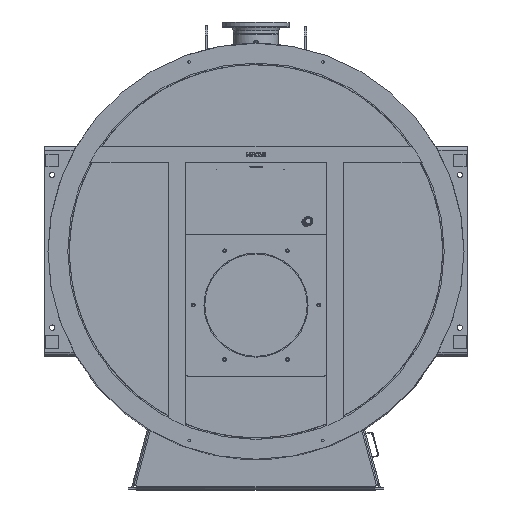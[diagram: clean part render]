
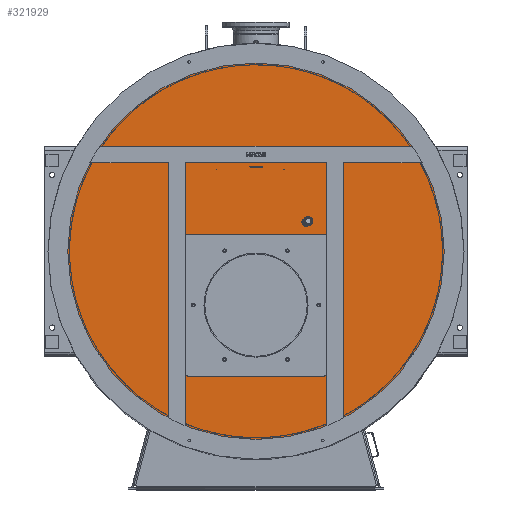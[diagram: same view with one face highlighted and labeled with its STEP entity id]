
A CAD part, top view. The second image highlights one B-rep face of the part: STEP entity #321929.
In plain terms, the highlighted planar face has unit normal (0, 0, 1).
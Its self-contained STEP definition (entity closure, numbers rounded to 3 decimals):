
#321810=CARTESIAN_POINT('',(190.,-163.25,478.));
#321811=DIRECTION('',(0.,0.,1.));
#321812=DIRECTION('',(1.,0.,0.));
#321813=AXIS2_PLACEMENT_3D('',#321810,#321811,#321812);
#321814=PLANE('',#321813);
#321815=CARTESIAN_POINT('',(-430.,-736.5,478.));
#321816=VERTEX_POINT('',#321815);
#321817=CARTESIAN_POINT('',(-410.,-756.5,478.));
#321818=VERTEX_POINT('',#321817);
#321819=CARTESIAN_POINT('',(-410.,-736.5,478.));
#321820=DIRECTION('',(0.,0.,1.));
#321821=DIRECTION('',(1.,0.,-0.));
#321822=AXIS2_PLACEMENT_3D('',#321819,#321820,#321821);
#321823=CIRCLE('',#321822,20.);
#321824=EDGE_CURVE('',#321816,#321818,#321823,.T.);
#321825=ORIENTED_EDGE('',*,*,#321824,.F.);
#321826=CARTESIAN_POINT('',(-430.,83.5,478.));
#321827=VERTEX_POINT('',#321826);
#321828=CARTESIAN_POINT('',(-430.,-736.5,478.));
#321829=DIRECTION('',(0.,1.,0.));
#321830=VECTOR('',#321829,820.);
#321831=LINE('',#321828,#321830);
#321832=EDGE_CURVE('',#321816,#321827,#321831,.T.);
#321833=ORIENTED_EDGE('',*,*,#321832,.T.);
#321834=CARTESIAN_POINT('',(-410.,103.5,478.));
#321835=VERTEX_POINT('',#321834);
#321836=CARTESIAN_POINT('',(-410.,83.5,478.));
#321837=DIRECTION('',(0.,0.,1.));
#321838=DIRECTION('',(1.,0.,-0.));
#321839=AXIS2_PLACEMENT_3D('',#321836,#321837,#321838);
#321840=CIRCLE('',#321839,20.);
#321841=EDGE_CURVE('',#321835,#321827,#321840,.T.);
#321842=ORIENTED_EDGE('',*,*,#321841,.F.);
#321843=CARTESIAN_POINT('',(410.,103.5,478.));
#321844=VERTEX_POINT('',#321843);
#321845=CARTESIAN_POINT('',(410.,103.5,478.));
#321846=DIRECTION('',(-1.,0.,0.));
#321847=VECTOR('',#321846,820.);
#321848=LINE('',#321845,#321847);
#321849=EDGE_CURVE('',#321844,#321835,#321848,.T.);
#321850=ORIENTED_EDGE('',*,*,#321849,.F.);
#321851=CARTESIAN_POINT('',(430.,83.5,478.));
#321852=VERTEX_POINT('',#321851);
#321853=CARTESIAN_POINT('',(410.,83.5,478.));
#321854=DIRECTION('',(0.,0.,1.));
#321855=DIRECTION('',(1.,0.,-0.));
#321856=AXIS2_PLACEMENT_3D('',#321853,#321854,#321855);
#321857=CIRCLE('',#321856,20.);
#321858=EDGE_CURVE('',#321852,#321844,#321857,.T.);
#321859=ORIENTED_EDGE('',*,*,#321858,.F.);
#321860=CARTESIAN_POINT('',(430.,-736.5,478.));
#321861=VERTEX_POINT('',#321860);
#321862=CARTESIAN_POINT('',(430.,-736.5,478.));
#321863=DIRECTION('',(0.,1.,0.));
#321864=VECTOR('',#321863,820.);
#321865=LINE('',#321862,#321864);
#321866=EDGE_CURVE('',#321861,#321852,#321865,.T.);
#321867=ORIENTED_EDGE('',*,*,#321866,.F.);
#321868=CARTESIAN_POINT('',(410.,-756.5,478.));
#321869=VERTEX_POINT('',#321868);
#321870=CARTESIAN_POINT('',(410.,-736.5,478.));
#321871=DIRECTION('',(0.,0.,1.));
#321872=DIRECTION('',(1.,0.,-0.));
#321873=AXIS2_PLACEMENT_3D('',#321870,#321871,#321872);
#321874=CIRCLE('',#321873,20.);
#321875=EDGE_CURVE('',#321869,#321861,#321874,.T.);
#321876=ORIENTED_EDGE('',*,*,#321875,.F.);
#321877=CARTESIAN_POINT('',(-410.,-756.5,478.));
#321878=DIRECTION('',(1.,0.,-0.));
#321879=VECTOR('',#321878,820.);
#321880=LINE('',#321877,#321879);
#321881=EDGE_CURVE('',#321818,#321869,#321880,.T.);
#321882=ORIENTED_EDGE('',*,*,#321881,.F.);
#321883=EDGE_LOOP('',(#321825,#321833,#321842,#321850,#321859,#321867,#321876,#321882));
#321884=FACE_BOUND('',#321883,.T.);
#321885=CARTESIAN_POINT('',(280.609,175.,478.));
#321886=VERTEX_POINT('',#321885);
#321887=CARTESIAN_POINT('',(303.109,175.,478.));
#321888=DIRECTION('',(-0.,-0.,1.));
#321889=DIRECTION('',(-1.,0.,0.));
#321890=AXIS2_PLACEMENT_3D('',#321887,#321888,#321889);
#321891=CIRCLE('',#321890,22.5);
#321892=EDGE_CURVE('',#321886,#321886,#321891,.T.);
#321893=ORIENTED_EDGE('',*,*,#321892,.F.);
#321894=EDGE_LOOP('',(#321893));
#321895=FACE_BOUND('',#321894,.T.);
#321896=CARTESIAN_POINT('',(-238.5,495.,478.));
#321897=VERTEX_POINT('',#321896);
#321898=CARTESIAN_POINT('',(-240.,495.,478.));
#321899=DIRECTION('',(0.,0.,1.));
#321900=DIRECTION('',(1.,0.,-0.));
#321901=AXIS2_PLACEMENT_3D('',#321898,#321899,#321900);
#321902=CIRCLE('',#321901,1.5);
#321903=EDGE_CURVE('',#321897,#321897,#321902,.T.);
#321904=ORIENTED_EDGE('',*,*,#321903,.F.);
#321905=EDGE_LOOP('',(#321904));
#321906=FACE_BOUND('',#321905,.T.);
#321907=CARTESIAN_POINT('',(171.5,495.,478.));
#321908=VERTEX_POINT('',#321907);
#321909=CARTESIAN_POINT('',(170.,495.,478.));
#321910=DIRECTION('',(0.,0.,1.));
#321911=DIRECTION('',(1.,0.,-0.));
#321912=AXIS2_PLACEMENT_3D('',#321909,#321910,#321911);
#321913=CIRCLE('',#321912,1.5);
#321914=EDGE_CURVE('',#321908,#321908,#321913,.T.);
#321915=ORIENTED_EDGE('',*,*,#321914,.F.);
#321916=EDGE_LOOP('',(#321915));
#321917=FACE_BOUND('',#321916,.T.);
#321918=CARTESIAN_POINT('',(-1140.,-0.,478.));
#321919=VERTEX_POINT('',#321918);
#321920=CARTESIAN_POINT('',(0.,0.,478.));
#321921=DIRECTION('',(-0.,-0.,1.));
#321922=DIRECTION('',(-1.,0.,0.));
#321923=AXIS2_PLACEMENT_3D('',#321920,#321921,#321922);
#321924=CIRCLE('',#321923,1140.);
#321925=EDGE_CURVE('',#321919,#321919,#321924,.T.);
#321926=ORIENTED_EDGE('',*,*,#321925,.T.);
#321927=EDGE_LOOP('',(#321926));
#321928=FACE_BOUND('',#321927,.T.);
#321929=ADVANCED_FACE('',(#321884,#321895,#321906,#321917,#321928),#321814,.T.);
